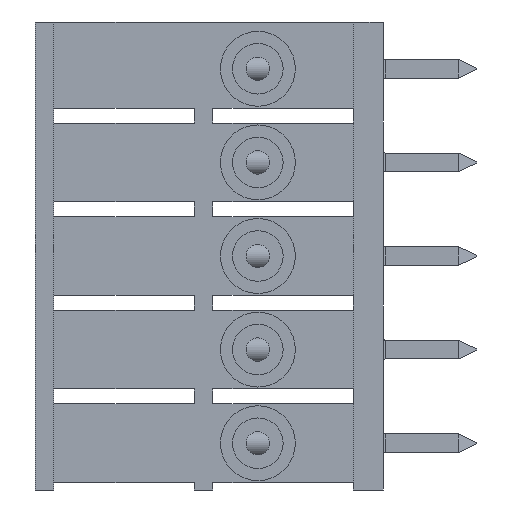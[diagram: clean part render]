
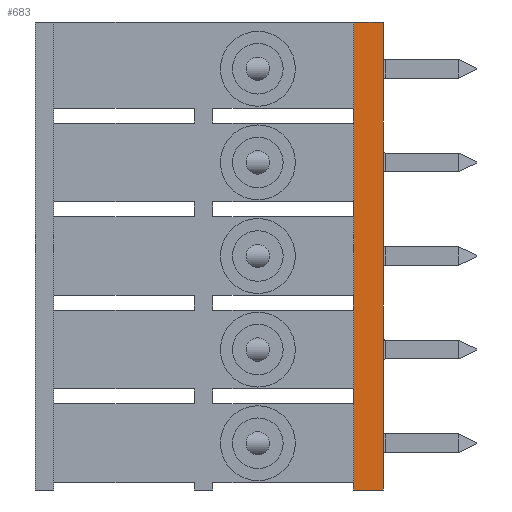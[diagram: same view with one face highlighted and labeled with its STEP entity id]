
A CAD part, left-side view. The second image highlights one B-rep face of the part: STEP entity #683.
In plain terms, the highlighted planar face has unit normal (-1, 0, 0).
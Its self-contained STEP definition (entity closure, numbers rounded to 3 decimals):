
#683 = ADVANCED_FACE ( 'NONE', ( #3196 ), #3195, .T. ) ;
#684 = EDGE_LOOP ( 'NONE', ( #685, #688, #689, #692 ) ) ;
#685 = ORIENTED_EDGE ( 'NONE', *, *, #686, .T. ) ;
#686 = EDGE_CURVE ( 'NONE', #687, #10994, #3190, .T. ) ;
#687 = VERTEX_POINT ( 'NONE', #3186 ) ;
#688 = ORIENTED_EDGE ( 'NONE', *, *, #11061, .T. ) ;
#689 = ORIENTED_EDGE ( 'NONE', *, *, #690, .T. ) ;
#690 = EDGE_CURVE ( 'NONE', #11059, #691, #3185, .T. ) ;
#691 = VERTEX_POINT ( 'NONE', #3181 ) ;
#692 = ORIENTED_EDGE ( 'NONE', *, *, #693, .F. ) ;
#693 = EDGE_CURVE ( 'NONE', #687, #691, #3243, .T. ) ;
#3181 = CARTESIAN_POINT ( 'NONE',  ( -4.921, -14.729, -25. ) ) ;
#3182 = DIRECTION ( 'NONE',  ( 0., -1., 0. ) ) ;
#3183 = VECTOR ( 'NONE', #3182, 1000. ) ;
#3184 = CARTESIAN_POINT ( 'NONE',  ( -4.921, -13.938, -25. ) ) ;
#3185 = LINE ( 'NONE', #3184, #3183 ) ;
#3186 = CARTESIAN_POINT ( 'NONE',  ( -4.921, -14.729, 0. ) ) ;
#3187 = DIRECTION ( 'NONE',  ( 0., 1., 0. ) ) ;
#3188 = VECTOR ( 'NONE', #3187, 1000. ) ;
#3189 = CARTESIAN_POINT ( 'NONE',  ( -4.921, -13.938, 0. ) ) ;
#3190 = LINE ( 'NONE', #3189, #3188 ) ;
#3191 = DIRECTION ( 'NONE',  ( 0., 0., 1. ) ) ;
#3192 = DIRECTION ( 'NONE',  ( -1., 0., 0. ) ) ;
#3193 = CARTESIAN_POINT ( 'NONE',  ( -4.921, -14.729, -25. ) ) ;
#3194 = AXIS2_PLACEMENT_3D ( 'NONE', #3193, #3192, #3191 ) ;
#3195 = PLANE ( 'NONE',  #3194 ) ;
#3196 = FACE_OUTER_BOUND ( 'NONE', #684, .T. ) ;
#3240 = DIRECTION ( 'NONE',  ( 0., 0., -1. ) ) ;
#3241 = VECTOR ( 'NONE', #3240, 1000. ) ;
#3242 = CARTESIAN_POINT ( 'NONE',  ( -4.921, -14.729, -12.5 ) ) ;
#3243 = LINE ( 'NONE', #3242, #3241 ) ;
#9296 = CARTESIAN_POINT ( 'NONE',  ( -4.921, -13.147, 0. ) ) ;
#9413 = DIRECTION ( 'NONE',  ( 0., 0., -1. ) ) ;
#9414 = VECTOR ( 'NONE', #9413, 1000. ) ;
#9415 = CARTESIAN_POINT ( 'NONE',  ( -4.921, -13.147, -12.5 ) ) ;
#9416 = LINE ( 'NONE', #9415, #9414 ) ;
#9417 = CARTESIAN_POINT ( 'NONE',  ( -4.921, -13.147, -25. ) ) ;
#10994 = VERTEX_POINT ( 'NONE', #9296 ) ;
#11059 = VERTEX_POINT ( 'NONE', #9417 ) ;
#11061 = EDGE_CURVE ( 'NONE', #10994, #11059, #9416, .T. ) ;
